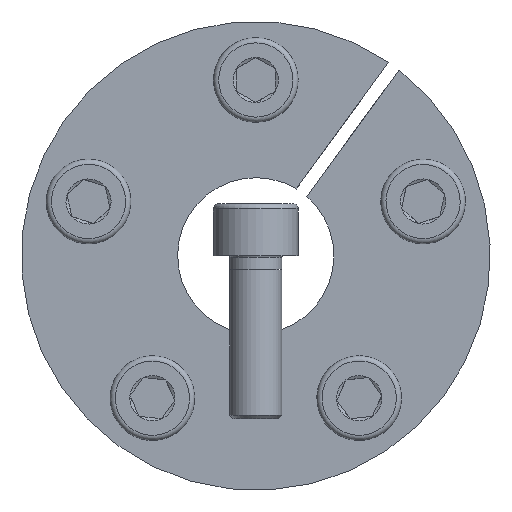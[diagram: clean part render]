
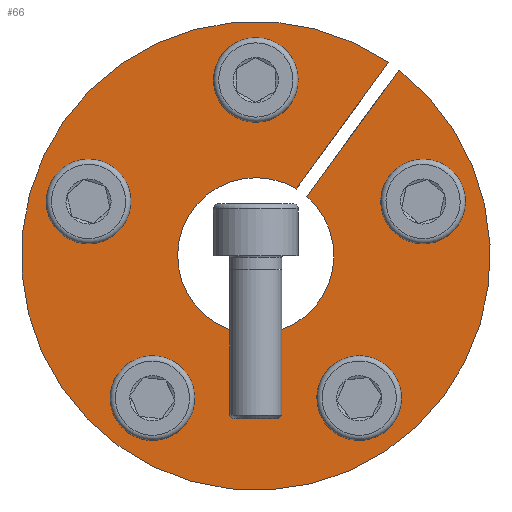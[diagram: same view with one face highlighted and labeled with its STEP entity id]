
A CAD part, front view. The second image highlights one B-rep face of the part: STEP entity #66.
In plain terms, the highlighted planar face has unit normal (0, -1, 0).
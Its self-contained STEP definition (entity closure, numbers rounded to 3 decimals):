
#66 = ADVANCED_FACE( '', ( #139, #140, #141, #142, #143, #144 ), #145, .F. );
#139 = FACE_OUTER_BOUND( '', #259, .T. );
#140 = FACE_BOUND( '', #260, .T. );
#141 = FACE_BOUND( '', #261, .T. );
#142 = FACE_BOUND( '', #262, .T. );
#143 = FACE_BOUND( '', #263, .T. );
#144 = FACE_BOUND( '', #264, .T. );
#145 = PLANE( '', #265 );
#259 = EDGE_LOOP( '', ( #404, #405, #406, #407 ) );
#260 = EDGE_LOOP( '', ( #408 ) );
#261 = EDGE_LOOP( '', ( #409 ) );
#262 = EDGE_LOOP( '', ( #410 ) );
#263 = EDGE_LOOP( '', ( #411 ) );
#264 = EDGE_LOOP( '', ( #412 ) );
#265 = AXIS2_PLACEMENT_3D( '', #413, #414, #415 );
#404 = ORIENTED_EDGE( '', *, *, #650, .T. );
#405 = ORIENTED_EDGE( '', *, *, #651, .T. );
#406 = ORIENTED_EDGE( '', *, *, #652, .T. );
#407 = ORIENTED_EDGE( '', *, *, #653, .F. );
#408 = ORIENTED_EDGE( '', *, *, #654, .F. );
#409 = ORIENTED_EDGE( '', *, *, #655, .F. );
#410 = ORIENTED_EDGE( '', *, *, #656, .F. );
#411 = ORIENTED_EDGE( '', *, *, #657, .F. );
#412 = ORIENTED_EDGE( '', *, *, #658, .F. );
#413 = CARTESIAN_POINT( '', ( 0., 0., 36. ) );
#414 = DIRECTION( '', ( 0., 1., 0. ) );
#415 = DIRECTION( '', ( 1., 0., 0. ) );
#650 = EDGE_CURVE( '', #787, #788, #789, .T. );
#651 = EDGE_CURVE( '', #788, #790, #791, .T. );
#652 = EDGE_CURVE( '', #790, #792, #793, .T. );
#653 = EDGE_CURVE( '', #787, #792, #794, .T. );
#654 = EDGE_CURVE( '', #795, #795, #796, .T. );
#655 = EDGE_CURVE( '', #797, #797, #798, .T. );
#656 = EDGE_CURVE( '', #799, #799, #800, .T. );
#657 = EDGE_CURVE( '', #801, #801, #802, .T. );
#658 = EDGE_CURVE( '', #803, #803, #804, .T. );
#787 = VERTEX_POINT( '', #1050 );
#788 = VERTEX_POINT( '', #1051 );
#789 = LINE( '', #1052, #1053 );
#790 = VERTEX_POINT( '', #1054 );
#791 = CIRCLE( '', #1055, 36. );
#792 = VERTEX_POINT( '', #1056 );
#793 = LINE( '', #1057, #1058 );
#794 = CIRCLE( '', #1059, 12. );
#795 = VERTEX_POINT( '', #1060 );
#796 = CIRCLE( '', #1061, 4.5 );
#797 = VERTEX_POINT( '', #1062 );
#798 = CIRCLE( '', #1063, 4.5 );
#799 = VERTEX_POINT( '', #1064 );
#800 = CIRCLE( '', #1065, 4.5 );
#801 = VERTEX_POINT( '', #1066 );
#802 = CIRCLE( '', #1067, 4.5 );
#803 = VERTEX_POINT( '', #1068 );
#804 = CIRCLE( '', #1069, 4.5 );
#1050 = CARTESIAN_POINT( '', ( 6.22, 0., 10.262 ) );
#1051 = CARTESIAN_POINT( '', ( 20.343, 0., 29.701 ) );
#1052 = CARTESIAN_POINT( '', ( 6.22, 0., 10.262 ) );
#1053 = VECTOR( '', #1215, 1000. );
#1054 = CARTESIAN_POINT( '', ( 21.961, 0., 28.526 ) );
#1055 = AXIS2_PLACEMENT_3D( '', #1216, #1217, #1218 );
#1056 = CARTESIAN_POINT( '', ( 7.838, 0., 9.087 ) );
#1057 = CARTESIAN_POINT( '', ( 21.969, 0., 28.537 ) );
#1058 = VECTOR( '', #1219, 1000. );
#1059 = AXIS2_PLACEMENT_3D( '', #1220, #1221, #1222 );
#1060 = CARTESIAN_POINT( '', ( 4.5, 0., 27. ) );
#1061 = AXIS2_PLACEMENT_3D( '', #1223, #1224, #1225 );
#1062 = CARTESIAN_POINT( '', ( 27.069, 0., 4.064 ) );
#1063 = AXIS2_PLACEMENT_3D( '', #1226, #1227, #1228 );
#1064 = CARTESIAN_POINT( '', ( 12.23, 0., -24.488 ) );
#1065 = AXIS2_PLACEMENT_3D( '', #1229, #1230, #1231 );
#1066 = CARTESIAN_POINT( '', ( -19.511, 0., -19.198 ) );
#1067 = AXIS2_PLACEMENT_3D( '', #1232, #1233, #1234 );
#1068 = CARTESIAN_POINT( '', ( -24.288, 0., 12.623 ) );
#1069 = AXIS2_PLACEMENT_3D( '', #1235, #1236, #1237 );
#1215 = DIRECTION( '', ( 0.588, 0., 0.809 ) );
#1216 = CARTESIAN_POINT( '', ( 0., 0., 0. ) );
#1217 = DIRECTION( '', ( 0., -1., 0. ) );
#1218 = DIRECTION( '', ( 0., 0., -1. ) );
#1219 = DIRECTION( '', ( -0.588, 0., -0.809 ) );
#1220 = CARTESIAN_POINT( '', ( 0., 0., 0. ) );
#1221 = DIRECTION( '', ( 0., -1., 0. ) );
#1222 = DIRECTION( '', ( 0., 0., -1. ) );
#1223 = CARTESIAN_POINT( '', ( 0., 0., 27. ) );
#1224 = DIRECTION( '', ( 0., -1., 0. ) );
#1225 = DIRECTION( '', ( 1., 0., 0. ) );
#1226 = CARTESIAN_POINT( '', ( 25.679, 0., 8.343 ) );
#1227 = DIRECTION( '', ( 0., -1., 0. ) );
#1228 = DIRECTION( '', ( 0.309, 0., -0.951 ) );
#1229 = CARTESIAN_POINT( '', ( 15.87, 0., -21.843 ) );
#1230 = DIRECTION( '', ( 0., -1., 0. ) );
#1231 = DIRECTION( '', ( -0.809, 0., -0.588 ) );
#1232 = CARTESIAN_POINT( '', ( -15.87, 0., -21.843 ) );
#1233 = DIRECTION( '', ( 0., -1., 0. ) );
#1234 = DIRECTION( '', ( -0.809, 0., 0.588 ) );
#1235 = CARTESIAN_POINT( '', ( -25.679, 0., 8.343 ) );
#1236 = DIRECTION( '', ( 0., -1., 0. ) );
#1237 = DIRECTION( '', ( 0.309, 0., 0.951 ) );
